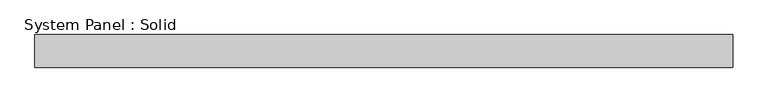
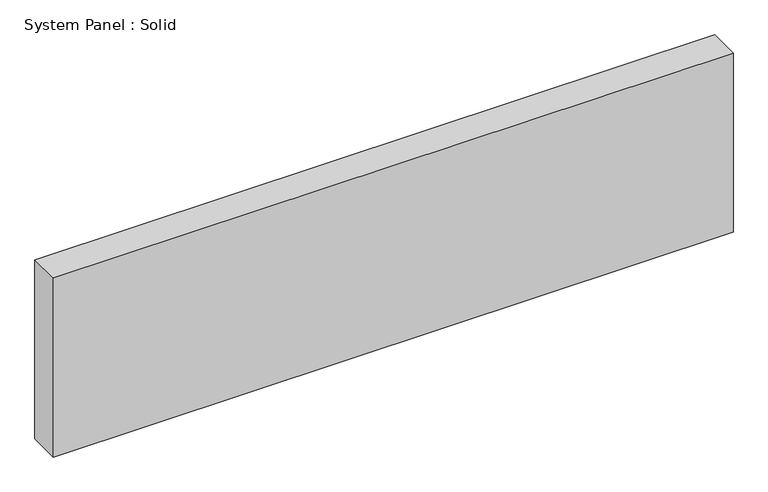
"""IFC4 building model written with IfcOpenShell, lengths in millimetres: plate geometry, System Panel : Solid."""

from ifc_helpers import new_model, si_unit, origin, origin_with_axes, place, context, project, spatial, polyline, outline, extrude, source, transform, mapped, element, save


def system_panel_solid_e8f29435(model_context):
    return source(origin(), model_context, "Body", "SweptSolid", [
        extrude(outline(polyline([(680.0830663, -19.05), (-680.0830663, -19.05), (-680.0830663, 44.45), (680.0830663, 44.45), (680.0830663, -19.05)])), origin_with_axes(), (0.0, 0.0, 1.0), 379.1388226),
    ])


if __name__ == "__main__":
    model = new_model("IFC4")
    model_context = context("Model", 3, world=origin())
    ifc_project = project(units=[si_unit("LENGTHUNIT", "METRE", prefix="MILLI")], contexts=[model_context])
    site = spatial("IfcSite", under=ifc_project)
    building = spatial("IfcBuilding", under=site)
    placement = place(None, origin())
    system_panel_solid_shape = system_panel_solid_e8f29435(model_context)
    element("IfcPlate", 1, ObjectType="System Panel : Solid", at=placement, inside=building, context=model_context, shape_type="MappedRepresentation", body=[
        mapped(system_panel_solid_shape, transform((0.0, 0.0, 0.0), x_axis=(1.0, 0.0, 0.0), y_axis=(0.0, 1.0, 0.0), z_axis=(0.0, 0.0, 1.0))),
    ])
    save(model, "model.ifc")
